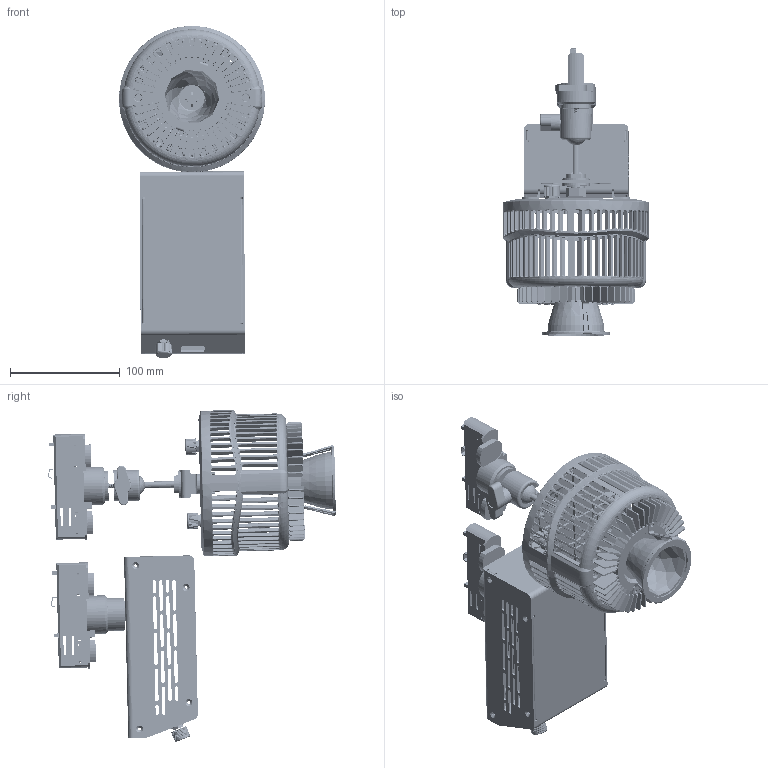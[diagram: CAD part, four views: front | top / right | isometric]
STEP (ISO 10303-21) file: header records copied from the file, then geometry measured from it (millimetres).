
FILE_DESCRIPTION (( 'STEP AP214' ), '1' );
FILE_NAME ('W500N-TEX-PSX.STEP', '2024-02-01T22:47:31', ( '' ), ( '' ), 'SwSTEP 2.0', 'SolidWorks 2022', '' );
FILE_SCHEMA (( 'AUTOMOTIVE_DESIGN' ));
Length unit declared in the file: millimetre
Products named in the file (31): 5120530-XXX_A1_Assembly BOM, W500 Reflector Type_Reflector - 55D-BD; 5022452-003_A3_Reflector Sink Holder, D108x14.35(H)mm (-004 is White)_-003(Black); 5022431-XXX_A1_Ball Joint Part A, L=23.7mm___; 5120539-XXX_A1_Housing, OD=133, ID=121, T=78.1mm, For Reflector, Without Logo___; 5020897-2010216520_ _Helical Spring Washer Customized___; 5022189_A1_Plate, OD=48, ID=23, T=2.0mm___; 5020893-2010525020_ _Flat Washer, M10, ID10.5 OD25.0, T2 SUS 304___; 5120519-XXX_A3_Assembly BOM, Kessil W500 Power Box_TON(US)-PS; W500N-TEX-PSX; 5021926-XXX_A2_KNOB, 18T, OD=14.9, ID=6, L=10MM_C1; 5021416_A1_Hex Nut, M10xP1.5, T8 SUS___; 5022445-XXX_A1_DC Plug for W Series, D=12mm_-002(Black); 5022708-XXX_A2_Ball Joint Axis, L=65.8mm___; 5022014-XYZ_A2_EUTRAC Multi Adapter_Finissh_2(No Locked); 5120522-XXX_A4_Assembly BOM, W360&W500 Light Mounting Type_TG; 5010177-XXX_A2_Assembly BOM, Kessil W500_55D-BD-[TEX]; 5060069-XXX_A2_W series Reflector-35, OD=62, H=45mm___; 5120529-XXX_A1_Assembly BOM, W500 Light Engine_Finish; 5020757-002_A2_VR Washer, Kessil A360 Aquarium Light___; 5022453-XXX_A1_35D Sink Holder B, 71.2x62.2x31.1(H)mm___; 5022399_A1_Fix Ball Joint Part for EUTRAC, D=28mm___; 62280-1343006_ _SCREW, PAN HEAD TROX W-THD LOCK, SUS-410, BLACK, M3xL6mm___; 5120540-XXX_A1_Rear Panel, OD=133, T=13.65mm, W-Series_5120531-001 W500; 5022484-XXX_A1_Retaining Collar, M10xL10 P1.0, D30.0x31.1mm___; 5022405-XXX_A1_Wing Knob Screws, M6xL8.0mm_-001; 5022398-XXX_A1_Plug for W Series, 19x10x9.4mm_-002(Black); 62282-5014005_ _Standard Types of Metric Set Screws, M4xL5, Black___; 5020757-001_A1_VR Nut, Kessil A360 Aquarium Light___; 5022693-XXX_A1_Bracket, 98.85x25x17.5, T=2.5mm___; 5022427-XXX_A4_250W Power Box FRAME (TG&TEX&CLP TYPE), 165x95x64mm___; 5022432-XXX_A2_250W Power Box Cover (TEX-PSX TYPE), 165x92x62.5(H)mm___
Assembly tree (39 placements, depth 4):
  W500N-TEX-PSX
    5120519-XXX_A3_Assembly BOM, Kessil W500 Power Box_TON(US)-PS
      5022427-XXX_A4_250W Power Box FRAME (TG&TEX&CLP TYPE), 165x95x64mm___
      5022014-XYZ_A2_EUTRAC Multi Adapter_Finissh_2(No Locked)
      5022484-XXX_A1_Retaining Collar, M10xL10 P1.0, D30.0x31.1mm___
      5022432-XXX_A2_250W Power Box Cover (TEX-PSX TYPE), 165x92x62.5(H)mm___
      5020757-002_A2_VR Washer, Kessil A360 Aquarium Light___
      5020757-001_A1_VR Nut, Kessil A360 Aquarium Light___
      5021926-XXX_A2_KNOB, 18T, OD=14.9, ID=6, L=10MM_C1
    5010177-XXX_A2_Assembly BOM, Kessil W500_55D-BD-[TEX]
      5120529-XXX_A1_Assembly BOM, W500 Light Engine_Finish
        5120540-XXX_A1_Rear Panel, OD=133, T=13.65mm, W-Series_5120531-001 W500
        5022398-XXX_A1_Plug for W Series, 19x10x9.4mm_-002(Black)
        5022445-XXX_A1_DC Plug for W Series, D=12mm_-002(Black)
        5020757-002_A2_VR Washer, Kessil A360 Aquarium Light___  x2
        5020757-001_A1_VR Nut, Kessil A360 Aquarium Light___  x2
        5021926-XXX_A2_KNOB, 18T, OD=14.9, ID=6, L=10MM_C1  x2
      5120530-XXX_A1_Assembly BOM, W500 Reflector Type_Reflector - 55D-BD
        5120539-XXX_A1_Housing, OD=133, ID=121, T=78.1mm, For Reflector, Without Logo___
        5022189_A1_Plate, OD=48, ID=23, T=2.0mm___
        62280-1343006_ _SCREW, PAN HEAD TROX W-THD LOCK, SUS-410, BLACK, M3xL6mm___  x2
        5022452-003_A3_Reflector Sink Holder, D108x14.35(H)mm (-004 is White)_-003(Black)
        5022453-XXX_A1_35D Sink Holder B, 71.2x62.2x31.1(H)mm___
        5060069-XXX_A2_W series Reflector-35, OD=62, H=45mm___
      5120522-XXX_A4_Assembly BOM, W360&W500 Light Mounting Type_TG
        5022431-XXX_A1_Ball Joint Part A, L=23.7mm___
        5022708-XXX_A2_Ball Joint Axis, L=65.8mm___
        62282-5014005_ _Standard Types of Metric Set Screws, M4xL5, Black___
        5022405-XXX_A1_Wing Knob Screws, M6xL8.0mm_-001
        5022693-XXX_A1_Bracket, 98.85x25x17.5, T=2.5mm___
        5022014-XYZ_A2_EUTRAC Multi Adapter_Finissh_2(No Locked)
        5022399_A1_Fix Ball Joint Part for EUTRAC, D=28mm___
        5020893-2010525020_ _Flat Washer, M10, ID10.5 OD25.0, T2 SUS 304___  x2
        5020897-2010216520_ _Helical Spring Washer Customized___
        5021416_A1_Hex Nut, M10xP1.5, T8 SUS___
Bounding box: 133 x 262.41 x 302.83 mm (x, y, z)
Volume: 405956 mm3; surface area: 395579.1 mm2
Topology: 48 solids, 48 shells, 7649 faces, 21020 edges, 13411 vertices
Faces by surface type: plane 3136, cylinder 2641, bspline 913, cone 512, torus 423, sphere 24
Entity records: 278524 total; most frequent: CARTESIAN_POINT 119305, ORIENTED_EDGE 34490, DIRECTION 28830, EDGE_CURVE 17245, VERTEX_POINT 10943, AXIS2_PLACEMENT_3D 10487, VECTOR 7856, LINE 7856
